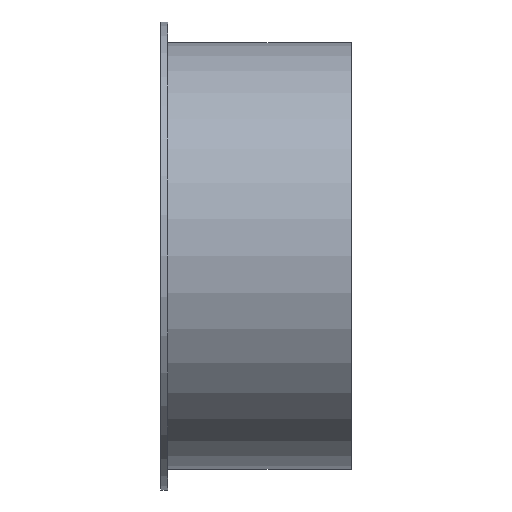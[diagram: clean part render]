
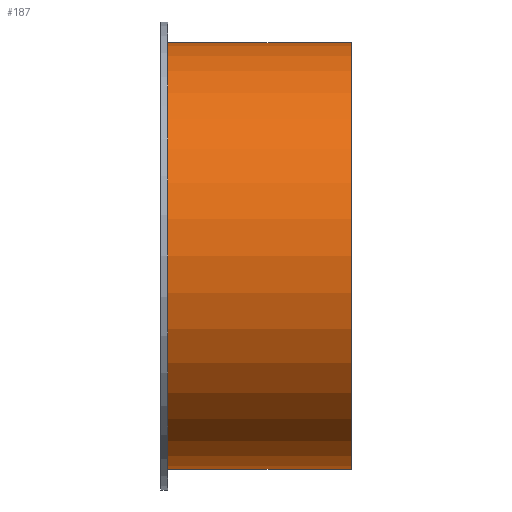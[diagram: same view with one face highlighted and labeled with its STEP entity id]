
A CAD part, front view. The second image highlights one B-rep face of the part: STEP entity #187.
In plain terms, the highlighted cylindrical face has radius 61.5 mm (diameter 123 mm), a full revolution.
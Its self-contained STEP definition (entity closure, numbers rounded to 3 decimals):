
#112=CARTESIAN_POINT('',(-15.,0.,0.0));
#113=VERTEX_POINT('',#112);
#114=CARTESIAN_POINT('',(-15.,61.5,0.0));
#115=DIRECTION('',(-1.0,0.0,0.0));
#116=DIRECTION('',(0.0,-1.0,0.0));
#117=AXIS2_PLACEMENT_3D('',#114,#115,#116);
#118=CIRCLE('',#117,61.5);
#119=EDGE_CURVE('',#113,#113,#118,.T.);
#161=CARTESIAN_POINT('',(38.0,0.,0.0));
#162=VERTEX_POINT('',#161);
#163=CARTESIAN_POINT('',(38.,61.5,0.0));
#164=DIRECTION('',(-1.0,0.0,0.0));
#165=DIRECTION('',(0.0,-1.0,0.0));
#166=AXIS2_PLACEMENT_3D('',#163,#164,#165);
#167=CIRCLE('',#166,61.5);
#168=EDGE_CURVE('',#162,#162,#167,.T.);
#176=CARTESIAN_POINT('',(11.5,61.5,0.0));
#177=DIRECTION('',(-1.0,0.,0.0));
#178=DIRECTION('',(0.0,-1.0,0.0));
#179=AXIS2_PLACEMENT_3D('',#176,#177,#178);
#180=CYLINDRICAL_SURFACE('',#179,61.5);
#181=ORIENTED_EDGE('',*,*,#119,.F.);
#182=EDGE_LOOP('',(#181));
#183=FACE_OUTER_BOUND('',#182,.T.);
#184=ORIENTED_EDGE('',*,*,#168,.T.);
#185=EDGE_LOOP('',(#184));
#186=FACE_BOUND('',#185,.T.);
#187=ADVANCED_FACE('',(#183,#186),#180,.T.);
